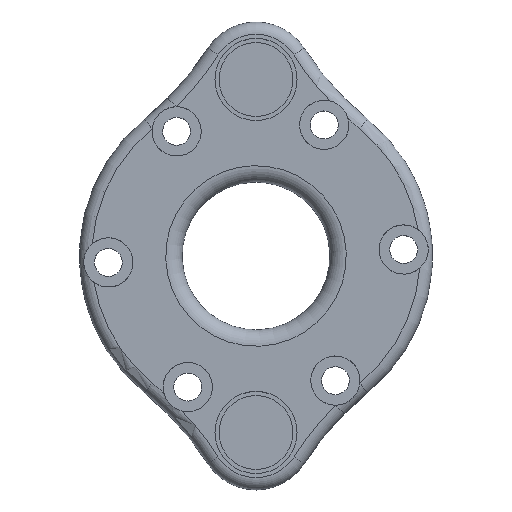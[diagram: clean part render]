
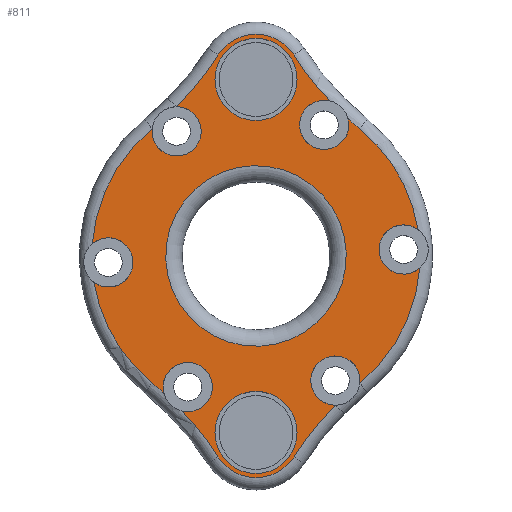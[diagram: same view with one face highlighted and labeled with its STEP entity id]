
A CAD part, top view. The second image highlights one B-rep face of the part: STEP entity #811.
In plain terms, the highlighted planar face has unit normal (0, 0, 1).
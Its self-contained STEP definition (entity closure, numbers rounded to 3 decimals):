
#17=FACE_BOUND('',#202,.T.);
#18=FACE_BOUND('',#203,.T.);
#19=FACE_BOUND('',#204,.T.);
#37=PLANE('',#921);
#149=FACE_OUTER_BOUND('',#201,.T.);
#201=EDGE_LOOP('',(#656,#657,#658,#659,#660,#661,#662,#663,#664,#665,#666,
#667,#668,#669,#670,#671,#672,#673,#674,#675,#676,#677));
#202=EDGE_LOOP('',(#678));
#203=EDGE_LOOP('',(#679));
#204=EDGE_LOOP('',(#680));
#238=CIRCLE('',#835,38.);
#242=CIRCLE('',#839,38.);
#243=CIRCLE('',#841,20.);
#246=CIRCLE('',#844,20.);
#248=CIRCLE('',#847,38.);
#251=CIRCLE('',#851,5.5);
#256=CIRCLE('',#858,38.);
#261=CIRCLE('',#864,5.5);
#262=CIRCLE('',#866,38.);
#265=CIRCLE('',#869,38.);
#266=CIRCLE('',#871,20.);
#269=CIRCLE('',#874,20.);
#278=CIRCLE('',#891,3.);
#280=CIRCLE('',#893,3.);
#281=CIRCLE('',#895,3.);
#283=CIRCLE('',#897,3.);
#284=CIRCLE('',#899,3.);
#296=CIRCLE('',#922,3.);
#297=CIRCLE('',#923,3.);
#298=CIRCLE('',#924,3.);
#299=CIRCLE('',#925,3.);
#300=CIRCLE('',#926,3.);
#301=CIRCLE('',#927,5.);
#302=CIRCLE('',#928,5.);
#303=CIRCLE('',#929,11.);
#333=VERTEX_POINT('',#1268);
#334=VERTEX_POINT('',#1269);
#335=VERTEX_POINT('',#1280);
#338=VERTEX_POINT('',#1286);
#339=VERTEX_POINT('',#1290);
#340=VERTEX_POINT('',#1291);
#341=VERTEX_POINT('',#1306);
#344=VERTEX_POINT('',#1314);
#345=VERTEX_POINT('',#1316);
#350=VERTEX_POINT('',#1335);
#351=VERTEX_POINT('',#1337);
#353=VERTEX_POINT('',#1343);
#355=VERTEX_POINT('',#1349);
#356=VERTEX_POINT('',#1350);
#357=VERTEX_POINT('',#1361);
#359=VERTEX_POINT('',#1368);
#361=VERTEX_POINT('',#1382);
#362=VERTEX_POINT('',#1389);
#372=VERTEX_POINT('',#1456);
#374=VERTEX_POINT('',#1463);
#386=VERTEX_POINT('',#1510);
#387=VERTEX_POINT('',#1513);
#388=VERTEX_POINT('',#1516);
#389=VERTEX_POINT('',#1518);
#390=VERTEX_POINT('',#1520);
#410=EDGE_CURVE('',#334,#335,#238,.T.);
#414=EDGE_CURVE('',#338,#333,#242,.T.);
#416=EDGE_CURVE('',#340,#341,#243,.T.);
#419=EDGE_CURVE('',#335,#339,#246,.T.);
#421=EDGE_CURVE('',#344,#345,#248,.T.);
#424=EDGE_CURVE('',#345,#338,#251,.T.);
#430=EDGE_CURVE('',#350,#351,#256,.T.);
#435=EDGE_CURVE('',#351,#353,#261,.T.);
#437=EDGE_CURVE('',#356,#357,#262,.T.);
#440=EDGE_CURVE('',#353,#355,#265,.T.);
#443=EDGE_CURVE('',#361,#362,#266,.T.);
#446=EDGE_CURVE('',#357,#359,#269,.T.);
#464=EDGE_CURVE('',#372,#339,#278,.T.);
#467=EDGE_CURVE('',#340,#372,#280,.T.);
#468=EDGE_CURVE('',#374,#333,#281,.T.);
#471=EDGE_CURVE('',#334,#374,#283,.T.);
#472=EDGE_CURVE('',#344,#362,#284,.T.);
#490=EDGE_CURVE('',#361,#359,#296,.T.);
#491=EDGE_CURVE('',#356,#386,#297,.T.);
#492=EDGE_CURVE('',#386,#355,#298,.T.);
#493=EDGE_CURVE('',#350,#387,#299,.T.);
#494=EDGE_CURVE('',#387,#341,#300,.T.);
#495=EDGE_CURVE('',#388,#388,#301,.T.);
#496=EDGE_CURVE('',#389,#389,#302,.T.);
#497=EDGE_CURVE('',#390,#390,#303,.T.);
#656=ORIENTED_EDGE('',*,*,#416,.F.);
#657=ORIENTED_EDGE('',*,*,#467,.T.);
#658=ORIENTED_EDGE('',*,*,#464,.T.);
#659=ORIENTED_EDGE('',*,*,#419,.F.);
#660=ORIENTED_EDGE('',*,*,#410,.F.);
#661=ORIENTED_EDGE('',*,*,#471,.T.);
#662=ORIENTED_EDGE('',*,*,#468,.T.);
#663=ORIENTED_EDGE('',*,*,#414,.F.);
#664=ORIENTED_EDGE('',*,*,#424,.F.);
#665=ORIENTED_EDGE('',*,*,#421,.F.);
#666=ORIENTED_EDGE('',*,*,#472,.T.);
#667=ORIENTED_EDGE('',*,*,#443,.F.);
#668=ORIENTED_EDGE('',*,*,#490,.T.);
#669=ORIENTED_EDGE('',*,*,#446,.F.);
#670=ORIENTED_EDGE('',*,*,#437,.F.);
#671=ORIENTED_EDGE('',*,*,#491,.T.);
#672=ORIENTED_EDGE('',*,*,#492,.T.);
#673=ORIENTED_EDGE('',*,*,#440,.F.);
#674=ORIENTED_EDGE('',*,*,#435,.F.);
#675=ORIENTED_EDGE('',*,*,#430,.F.);
#676=ORIENTED_EDGE('',*,*,#493,.T.);
#677=ORIENTED_EDGE('',*,*,#494,.T.);
#678=ORIENTED_EDGE('',*,*,#495,.T.);
#679=ORIENTED_EDGE('',*,*,#496,.T.);
#680=ORIENTED_EDGE('',*,*,#497,.F.);
#811=ADVANCED_FACE('',(#149,#17,#18,#19),#37,.T.);
#835=AXIS2_PLACEMENT_3D('',#1281,#973,#974);
#839=AXIS2_PLACEMENT_3D('',#1288,#981,#982);
#841=AXIS2_PLACEMENT_3D('',#1307,#985,#986);
#844=AXIS2_PLACEMENT_3D('',#1311,#991,#992);
#847=AXIS2_PLACEMENT_3D('',#1317,#997,#998);
#851=AXIS2_PLACEMENT_3D('',#1322,#1005,#1006);
#858=AXIS2_PLACEMENT_3D('',#1338,#1019,#1020);
#864=AXIS2_PLACEMENT_3D('',#1347,#1031,#1032);
#866=AXIS2_PLACEMENT_3D('',#1362,#1035,#1036);
#869=AXIS2_PLACEMENT_3D('',#1366,#1041,#1042);
#871=AXIS2_PLACEMENT_3D('',#1390,#1045,#1046);
#874=AXIS2_PLACEMENT_3D('',#1394,#1051,#1052);
#891=AXIS2_PLACEMENT_3D('',#1457,#1090,#1091);
#893=AXIS2_PLACEMENT_3D('',#1461,#1095,#1096);
#895=AXIS2_PLACEMENT_3D('',#1464,#1099,#1100);
#897=AXIS2_PLACEMENT_3D('',#1468,#1104,#1105);
#899=AXIS2_PLACEMENT_3D('',#1470,#1108,#1109);
#921=AXIS2_PLACEMENT_3D('',#1508,#1158,#1159);
#922=AXIS2_PLACEMENT_3D('',#1509,#1160,#1161);
#923=AXIS2_PLACEMENT_3D('',#1511,#1162,#1163);
#924=AXIS2_PLACEMENT_3D('',#1512,#1164,#1165);
#925=AXIS2_PLACEMENT_3D('',#1514,#1166,#1167);
#926=AXIS2_PLACEMENT_3D('',#1515,#1168,#1169);
#927=AXIS2_PLACEMENT_3D('',#1517,#1170,#1171);
#928=AXIS2_PLACEMENT_3D('',#1519,#1172,#1173);
#929=AXIS2_PLACEMENT_3D('',#1521,#1174,#1175);
#973=DIRECTION('center_axis',(0.,0.,1.));
#974=DIRECTION('ref_axis',(0.746,0.666,0.));
#981=DIRECTION('center_axis',(0.,0.,1.));
#982=DIRECTION('ref_axis',(0.746,0.666,0.));
#985=DIRECTION('center_axis',(0.,0.,-1.));
#986=DIRECTION('ref_axis',(-1.,0.,0.));
#991=DIRECTION('center_axis',(0.,0.,-1.));
#992=DIRECTION('ref_axis',(-1.,0.,0.));
#997=DIRECTION('center_axis',(0.,0.,1.));
#998=DIRECTION('ref_axis',(-0.746,0.666,0.));
#1005=DIRECTION('center_axis',(0.,0.,-1.));
#1006=DIRECTION('ref_axis',(0.,-1.,0.));
#1019=DIRECTION('center_axis',(0.,0.,1.));
#1020=DIRECTION('ref_axis',(0.746,-0.666,0.));
#1031=DIRECTION('center_axis',(0.,0.,-1.));
#1032=DIRECTION('ref_axis',(0.,1.,0.));
#1035=DIRECTION('center_axis',(0.,0.,1.));
#1036=DIRECTION('ref_axis',(-0.746,-0.666,0.));
#1041=DIRECTION('center_axis',(0.,0.,1.));
#1042=DIRECTION('ref_axis',(-0.746,-0.666,0.));
#1045=DIRECTION('center_axis',(0.,0.,-1.));
#1046=DIRECTION('ref_axis',(1.,0.,0.));
#1051=DIRECTION('center_axis',(0.,0.,-1.));
#1052=DIRECTION('ref_axis',(1.,0.,0.));
#1090=DIRECTION('center_axis',(0.,0.,-1.));
#1091=DIRECTION('ref_axis',(-0.887,0.462,0.));
#1095=DIRECTION('center_axis',(0.,0.,-1.));
#1096=DIRECTION('ref_axis',(-0.887,0.462,0.));
#1099=DIRECTION('center_axis',(0.,0.,-1.));
#1100=DIRECTION('ref_axis',(-0.887,0.462,0.));
#1104=DIRECTION('center_axis',(0.,0.,-1.));
#1105=DIRECTION('ref_axis',(-0.887,0.462,0.));
#1108=DIRECTION('center_axis',(0.,0.,-1.));
#1109=DIRECTION('ref_axis',(-0.887,0.462,0.));
#1158=DIRECTION('center_axis',(0.,0.,1.));
#1159=DIRECTION('ref_axis',(-0.887,0.462,0.));
#1160=DIRECTION('center_axis',(0.,0.,-1.));
#1161=DIRECTION('ref_axis',(-0.887,0.462,0.));
#1162=DIRECTION('center_axis',(0.,0.,-1.));
#1163=DIRECTION('ref_axis',(-0.887,0.462,0.));
#1164=DIRECTION('center_axis',(0.,0.,-1.));
#1165=DIRECTION('ref_axis',(-0.887,0.462,0.));
#1166=DIRECTION('center_axis',(0.,0.,-1.));
#1167=DIRECTION('ref_axis',(-0.887,0.462,0.));
#1168=DIRECTION('center_axis',(0.,0.,-1.));
#1169=DIRECTION('ref_axis',(-0.887,0.462,0.));
#1170=DIRECTION('center_axis',(0.,0.,-1.));
#1171=DIRECTION('ref_axis',(-1.,0.,0.));
#1172=DIRECTION('center_axis',(0.,0.,-1.));
#1173=DIRECTION('ref_axis',(-1.,0.,0.));
#1174=DIRECTION('center_axis',(0.,0.,1.));
#1175=DIRECTION('ref_axis',(0.887,-0.462,0.));
#1268=CARTESIAN_POINT('',(-8.992,-18.888,13.5));
#1269=CARTESIAN_POINT('',(-11.216,-16.718,13.5));
#1280=CARTESIAN_POINT('',(-12.628,-15.509,13.5));
#1281=CARTESIAN_POINT('Origin',(-36.621,-44.977,13.5));
#1286=CARTESIAN_POINT('',(-4.63,-24.468,13.5));
#1288=CARTESIAN_POINT('Origin',(-36.621,-44.977,13.5));
#1290=CARTESIAN_POINT('',(-19.74,-3.217,13.5));
#1291=CARTESIAN_POINT('',(-19.945,1.484,13.5));
#1306=CARTESIAN_POINT('',(-12.656,15.486,13.5));
#1307=CARTESIAN_POINT('Origin',(0.,0.,13.5));
#1311=CARTESIAN_POINT('Origin',(0.,0.,13.5));
#1314=CARTESIAN_POINT('',(9.677,-18.181,13.5));
#1316=CARTESIAN_POINT('',(4.63,-24.468,13.5));
#1317=CARTESIAN_POINT('Origin',(36.621,-44.977,13.5));
#1322=CARTESIAN_POINT('Origin',(0.,-21.5,13.5));
#1335=CARTESIAN_POINT('',(-9.677,18.181,13.5));
#1337=CARTESIAN_POINT('',(-4.63,24.468,13.5));
#1338=CARTESIAN_POINT('Origin',(-36.621,44.977,13.5));
#1343=CARTESIAN_POINT('',(4.63,24.468,13.5));
#1347=CARTESIAN_POINT('Origin',(0.,21.5,13.5));
#1349=CARTESIAN_POINT('',(8.992,18.888,13.5));
#1350=CARTESIAN_POINT('',(11.216,16.718,13.5));
#1361=CARTESIAN_POINT('',(12.628,15.509,13.5));
#1362=CARTESIAN_POINT('Origin',(36.621,44.977,13.5));
#1366=CARTESIAN_POINT('Origin',(36.621,44.977,13.5));
#1368=CARTESIAN_POINT('',(19.74,3.217,13.5));
#1382=CARTESIAN_POINT('',(19.945,-1.484,13.5));
#1389=CARTESIAN_POINT('',(12.656,-15.486,13.5));
#1390=CARTESIAN_POINT('Origin',(0.,0.,13.5));
#1394=CARTESIAN_POINT('Origin',(0.,0.,13.5));
#1456=CARTESIAN_POINT('',(-15.322,-2.17,13.5));
#1457=CARTESIAN_POINT('Origin',(-17.983,-0.785,13.5));
#1461=CARTESIAN_POINT('Origin',(-17.983,-0.785,13.5));
#1463=CARTESIAN_POINT('',(-5.65,-17.351,13.5));
#1464=CARTESIAN_POINT('Origin',(-8.311,-15.966,13.5));
#1468=CARTESIAN_POINT('Origin',(-8.311,-15.966,13.5));
#1470=CARTESIAN_POINT('Origin',(9.671,-15.181,13.5));
#1508=CARTESIAN_POINT('Origin',(0.,0.,
13.5));
#1509=CARTESIAN_POINT('Origin',(17.983,0.785,13.5));
#1510=CARTESIAN_POINT('',(10.973,14.581,13.5));
#1511=CARTESIAN_POINT('Origin',(8.311,15.966,13.5));
#1512=CARTESIAN_POINT('Origin',(8.311,15.966,13.5));
#1513=CARTESIAN_POINT('',(-7.01,13.796,13.5));
#1514=CARTESIAN_POINT('Origin',(-9.671,15.181,13.5));
#1515=CARTESIAN_POINT('Origin',(-9.671,15.181,13.5));
#1516=CARTESIAN_POINT('',(5.,21.5,13.5));
#1517=CARTESIAN_POINT('Origin',(0.,21.5,13.5));
#1518=CARTESIAN_POINT('',(5.,-21.5,13.5));
#1519=CARTESIAN_POINT('Origin',(0.,-21.5,13.5));
#1520=CARTESIAN_POINT('',(9.757,-5.079,13.5));
#1521=CARTESIAN_POINT('Origin',(0.,0.,
13.5));
